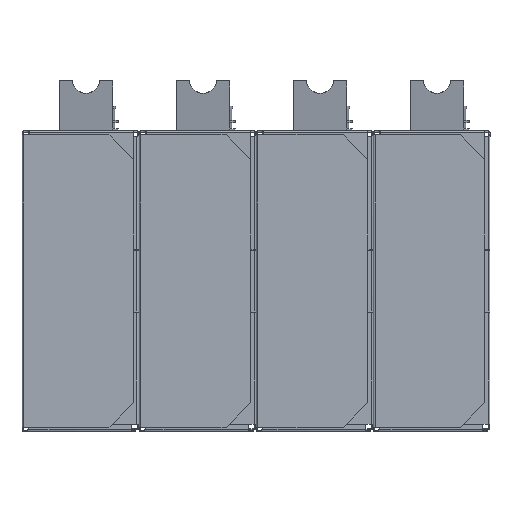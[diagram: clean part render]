
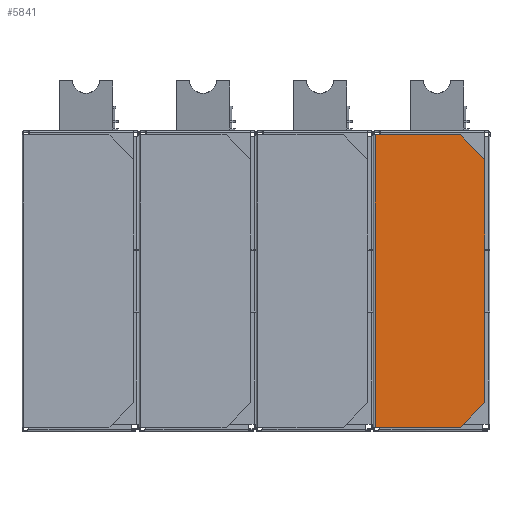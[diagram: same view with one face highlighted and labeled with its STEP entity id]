
A CAD part, left-side view. The second image highlights one B-rep face of the part: STEP entity #5841.
In plain terms, the highlighted planar face has unit normal (-1, 0, 0) as drawn and (0, 0, -1) by its records, which use the part's own axes.
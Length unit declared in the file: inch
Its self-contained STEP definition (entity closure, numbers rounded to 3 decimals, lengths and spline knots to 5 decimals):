
#4 = DIRECTION ( 'NONE',  ( 1., 0., 0. ) ) ;
#80 = EDGE_CURVE ( 'NONE', #7079, #8965, #11209, .T. ) ;
#88 = EDGE_LOOP ( 'NONE', ( #9351, #1724, #229, #13006, #8460, #11767 ) ) ;
#102 = VERTEX_POINT ( 'NONE', #3945 ) ;
#130 = VECTOR ( 'NONE', #10726, 39.37008 ) ;
#229 = ORIENTED_EDGE ( 'NONE', *, *, #1178, .F. ) ;
#1156 = LINE ( 'NONE', #11231, #12158 ) ;
#1178 = EDGE_CURVE ( 'NONE', #2130, #10579, #9416, .T. ) ;
#1218 = FACE_OUTER_BOUND ( 'NONE', #88, .T. ) ;
#1373 = LINE ( 'NONE', #2444, #8077 ) ;
#1723 = CARTESIAN_POINT ( 'NONE',  ( 5.86748, -2.03574, -38.74418 ) ) ;
#1724 = ORIENTED_EDGE ( 'NONE', *, *, #11943, .F. ) ;
#1769 = DIRECTION ( 'NONE',  ( 0., 1., 0. ) ) ;
#2036 = CARTESIAN_POINT ( 'NONE',  ( 9.68753, -6.59065, -38.74418 ) ) ;
#2130 = VERTEX_POINT ( 'NONE', #3307 ) ;
#2444 = CARTESIAN_POINT ( 'NONE',  ( 5.86748, 9.71426, -38.74418 ) ) ;
#2468 = EDGE_CURVE ( 'NONE', #12585, #2130, #1156, .T. ) ;
#2782 = CARTESIAN_POINT ( 'NONE',  ( 4.86749, 8.71426, -38.74418 ) ) ;
#2988 = EDGE_CURVE ( 'NONE', #8965, #102, #1373, .T. ) ;
#3307 = CARTESIAN_POINT ( 'NONE',  ( 4.86749, -1.03574, -38.74418 ) ) ;
#3945 = CARTESIAN_POINT ( 'NONE',  ( 5.86748, 9.71426, -38.74418 ) ) ;
#3987 = VECTOR ( 'NONE', #1769, 39.37008 ) ;
#5155 = DIRECTION ( 'NONE',  ( 0.707, -0.707, 0. ) ) ;
#5271 = CARTESIAN_POINT ( 'NONE',  ( 9.2826, 9.71426, -38.74418 ) ) ;
#5691 = VECTOR ( 'NONE', #12376, 39.37008 ) ;
#5841 = ADVANCED_FACE ( 'NONE', ( #1218 ), #9474, .F. ) ;
#6106 = CARTESIAN_POINT ( 'NONE',  ( 4.86749, -1.03574, -38.74418 ) ) ;
#6107 = DIRECTION ( 'NONE',  ( 0., 0., 1. ) ) ;
#6382 = DIRECTION ( 'NONE',  ( 0., -1., 0. ) ) ;
#7079 = VERTEX_POINT ( 'NONE', #9712 ) ;
#7545 = LINE ( 'NONE', #12726, #130 ) ;
#7630 = VECTOR ( 'NONE', #5155, 39.37008 ) ;
#8077 = VECTOR ( 'NONE', #12515, 39.37008 ) ;
#8342 = CARTESIAN_POINT ( 'NONE',  ( 5.86748, 9.71426, -38.74418 ) ) ;
#8460 = ORIENTED_EDGE ( 'NONE', *, *, #10420, .F. ) ;
#8965 = VERTEX_POINT ( 'NONE', #5271 ) ;
#9351 = ORIENTED_EDGE ( 'NONE', *, *, #80, .F. ) ;
#9416 = LINE ( 'NONE', #6106, #7630 ) ;
#9474 = PLANE ( 'NONE',  #11887 ) ;
#9712 = CARTESIAN_POINT ( 'NONE',  ( 9.2826, -2.03574, -38.74418 ) ) ;
#9964 = CARTESIAN_POINT ( 'NONE',  ( 9.2826, -6.59065, -38.74418 ) ) ;
#10138 = LINE ( 'NONE', #8342, #5691 ) ;
#10420 = EDGE_CURVE ( 'NONE', #102, #12585, #10138, .T. ) ;
#10579 = VERTEX_POINT ( 'NONE', #1723 ) ;
#10726 = DIRECTION ( 'NONE',  ( 1., 0., 0. ) ) ;
#11209 = LINE ( 'NONE', #9964, #3987 ) ;
#11231 = CARTESIAN_POINT ( 'NONE',  ( 4.86749, 8.71426, -38.74418 ) ) ;
#11767 = ORIENTED_EDGE ( 'NONE', *, *, #2988, .F. ) ;
#11887 = AXIS2_PLACEMENT_3D ( 'NONE', #2036, #6107, #4 ) ;
#11943 = EDGE_CURVE ( 'NONE', #10579, #7079, #7545, .T. ) ;
#12158 = VECTOR ( 'NONE', #6382, 39.37008 ) ;
#12376 = DIRECTION ( 'NONE',  ( -0.707, -0.707, 0. ) ) ;
#12515 = DIRECTION ( 'NONE',  ( -1., 0., 0. ) ) ;
#12585 = VERTEX_POINT ( 'NONE', #2782 ) ;
#12726 = CARTESIAN_POINT ( 'NONE',  ( 5.86748, -2.03574, -38.74418 ) ) ;
#13006 = ORIENTED_EDGE ( 'NONE', *, *, #2468, .F. ) ;
